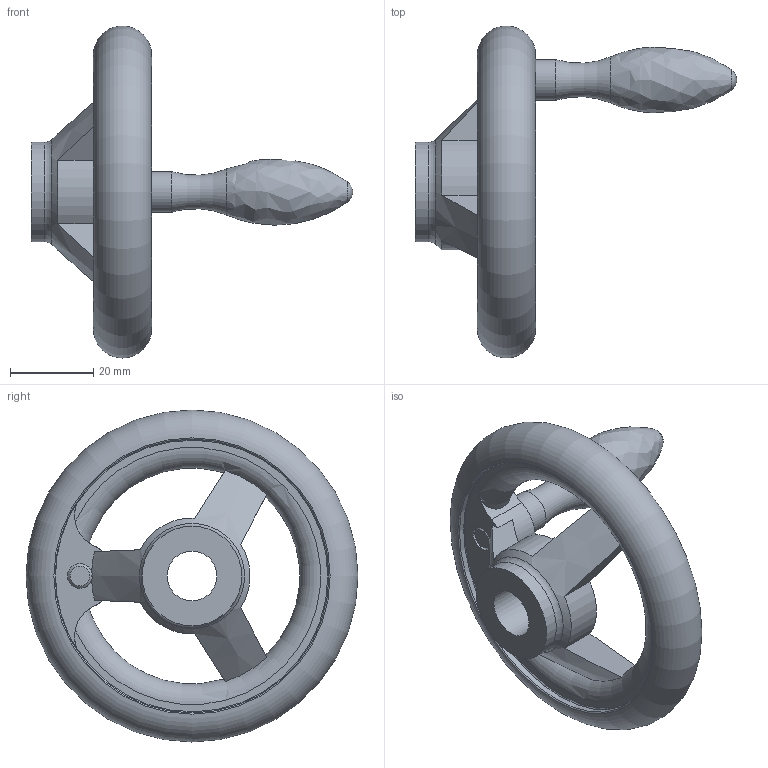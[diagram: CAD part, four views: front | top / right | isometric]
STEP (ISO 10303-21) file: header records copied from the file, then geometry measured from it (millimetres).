
FILE_DESCRIPTION( ( 'STEP AP203' ), '1' );
FILE_NAME( 'C:/Temp/Ganter_Step_05_03_2020/data/1_3/din_950/din_950_b/din_950_b_f/Handwheel DIN 950-AL-80-B12-F.stp', '2020-03-05T10:30:03', ( 'License CC BY-ND 4.0' ), ( 'CADENAS' ), ' ', 'PARTsolutions', ' ' );
FILE_SCHEMA( ( 'CONFIG_CONTROL_DESIGN' ) );
Length unit declared in the file: millimetre
Products named in the file (1): _Handwheel DIN 950-AL-80-B12-F
Bounding box: 77.5 x 80 x 80 mm (x, y, z)
Volume: 44945.4 mm3; surface area: 15599.8 mm2
Topology: 1 solids, 1 shells, 43 faces, 122 edges, 77 vertices
Faces by surface type: plane 14, cylinder 13, torus 11, cone 3, bspline 1, sphere 1
Full cylindrical faces by diameter (mm): 6 x1, 9.8 x1, 12 x1, 24 x2, 66 x2
Entity records: 1573 total; most frequent: CARTESIAN_POINT 535, DIRECTION 206, ORIENTED_EDGE 190, AXIS2_PLACEMENT_3D 97, EDGE_CURVE 95, VERTEX_POINT 72, EDGE_LOOP 67, FACE_OUTER_BOUND 59
